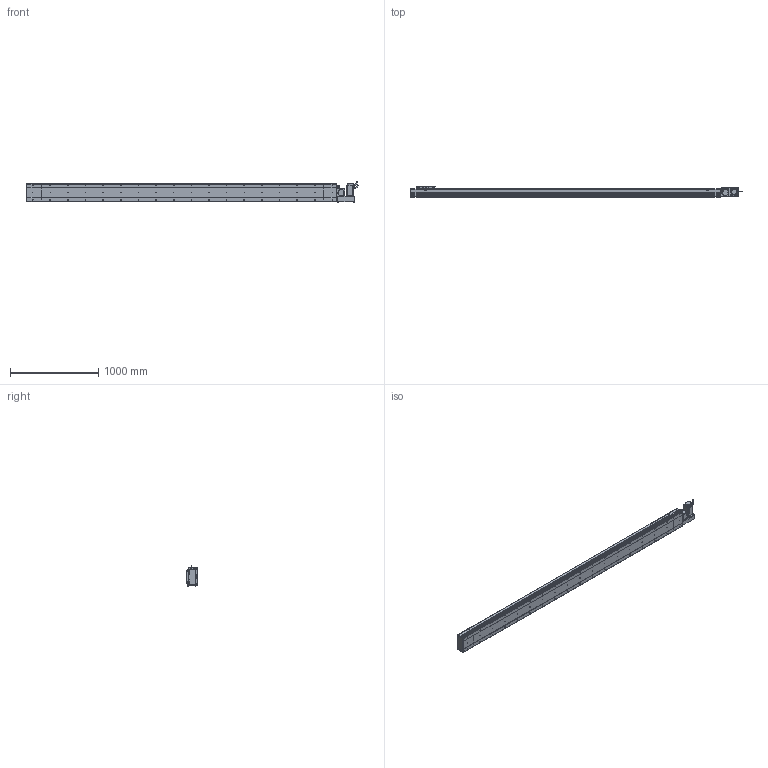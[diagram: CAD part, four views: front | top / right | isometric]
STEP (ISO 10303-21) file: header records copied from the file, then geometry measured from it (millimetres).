
FILE_DESCRIPTION (( 'STEP AP214' ), '1' );
FILE_NAME ('D20 CBH RH S3200.STEP', '2010-06-30T10:45:59', ( 'Conseil Régional Haute-Normandie' ), ( 'Conseil Régional Haute-Normandie' ), 'SwSTEP 2.0', 'SolidWorks 2010', '' );
FILE_SCHEMA (( 'AUTOMOTIVE_DESIGN' ));
Length unit declared in the file: millimetre
Products named in the file (31): Couvercle RH_Default; Moteur motionking 90BLDC125A-640; Support moteur RH_Default; Rondelle Cache D20 RH_Default; avant 90BLDC125A-640; Cache Support Moteur RH_Default; Conecteur_Default; vis M5 L30_Default; ecrou_Default; Glissiere_Default; Plaque De Serrage D20_Default; Plaque de Bout Tail D20_Default; Couvercle_Default; vis M5 L15_Default; Plaque de Bout Head D20 RH_Default; codeur 90BLDC125-640; Head D20 RH_Default; vis M5 L47_Default; Chariot D20_Default; Corp Tail D20_Default; Corp S3200_Default; corps 90BLDC125A-640; D20 CBH RH S3200; Tail D20_Default; Corp D20 S3200_Default; Conecteur2_Default; Couvercle S3200_Default; Support Chariot D20_Default; Plaque De Serrage D20 RH_Default; Corp Tail D20 RH_Default
Assembly tree (68 placements, depth 4):
  D20 CBH RH S3200
    Head D20 RH_Default
      vis M5 L15_Default  x14
      ecrou_Default  x4
      Support moteur RH_Default
      Rondelle Cache D20 RH_Default  x3
      vis M5 L30_Default  x4
      Cache Support Moteur RH_Default
      Plaque De Serrage D20 RH_Default
      vis M5 L47_Default  x4
      Moteur motionking 90BLDC125A-640
        corps 90BLDC125A-640
        codeur 90BLDC125-640
        Conecteur2_Default
        avant 90BLDC125A-640
        Conecteur_Default
      Couvercle RH_Default
      Plaque de Bout Head D20 RH_Default
      Corp Tail D20 RH_Default
    Chariot D20_Default
      vis M5 L15_Default  x8
      Glissiere_Default
      Chariot D20_Default
      Support Chariot D20_Default
    Corp D20 S3200_Default
      Corp S3200_Default
      Couvercle S3200_Default
    Tail D20_Default
      vis M5 L15_Default  x6
      Couvercle_Default
      Corp Tail D20_Default
      Plaque de Bout Tail D20_Default
      Plaque De Serrage D20_Default
Bounding box: 3765.45 x 119.5 x 229.7 mm (x, y, z)
Volume: 24505621.6 mm3; surface area: 4702556.3 mm2
Topology: 105 solids, 105 shells, 3871 faces, 9606 edges, 6238 vertices
Faces by surface type: plane 2146, bspline 806, cylinder 748, torus 95, cone 72, sphere 4
Entity records: 160862 total; most frequent: CARTESIAN_POINT 82547, ORIENTED_EDGE 15480, DIRECTION 11902, EDGE_CURVE 7740, VERTEX_POINT 5122, LINE 4972, VECTOR 4972, AXIS2_PLACEMENT_3D 3465
